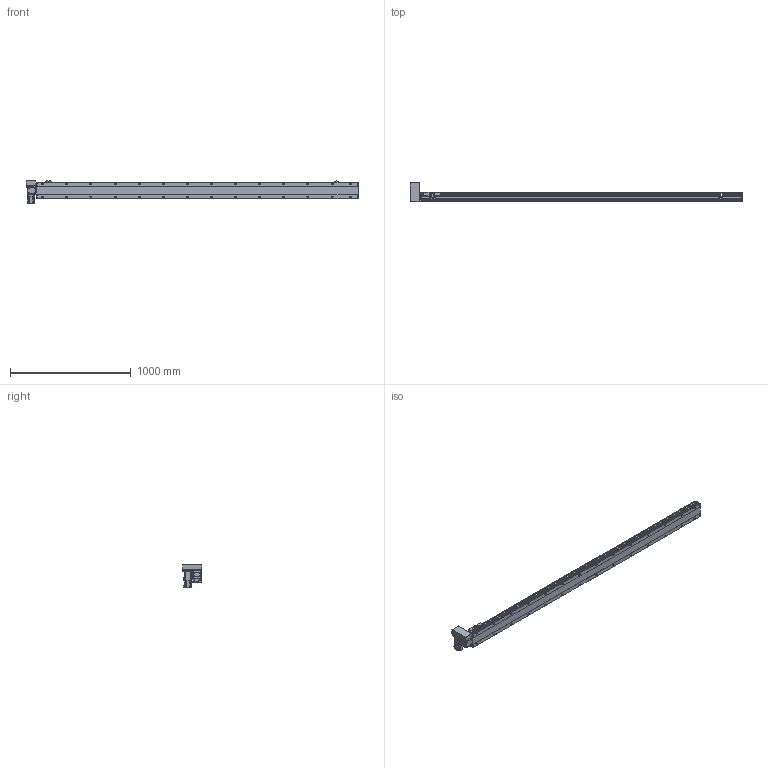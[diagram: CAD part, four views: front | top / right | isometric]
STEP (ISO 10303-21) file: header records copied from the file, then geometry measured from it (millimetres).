
FILE_DESCRIPTION( ( 'STEP AP214' ), '1' );
FILE_NAME( 'x:/temp/worker_4/temp/exporttempdir_2248_119_GVQYs/format_0/PBS140-P40-S2400-RU-T40-C1-N(0).stp', '2022-06-07T05:56:48', ( 'License CC BY-ND 4.0' ), ( 'CADENAS' ), ' ', 'PARTsolutions', ' ' );
FILE_SCHEMA( ( 'AUTOMOTIVE_DESIGN { 1 0 10303 214 1 1 1 1 }' ) );
Length unit declared in the file: millimetre
Products named in the file (7): PBS140-P40-S2400-RU-T40-C1-N(0); _PBS140-S2400()_body; _PBS140T-RU_motors; _T40-p1; _PBS140_sliser; _PBS140_plant; _PBS140_sensor
Assembly tree (8 placements, depth 2):
  PBS140-P40-S2400-RU-T40-C1-N(0)
    _PBS140-S2400()_body
    _PBS140T-RU_motors
    _T40-p1
    _PBS140_sliser
    _PBS140_plant
    _PBS140_sensor  x3
Bounding box: 2754 x 162.5 x 189.7 mm (x, y, z)
Volume: 12381727.6 mm3; surface area: 2110518 mm2
Topology: 8 solids, 8 shells, 1171 faces, 3076 edges, 2009 vertices
Faces by surface type: plane 728, cylinder 379, cone 54, sphere 8, torus 2
Full cylindrical faces by diameter (mm): 3.242 x4, 4 x2, 4.134 x4, 4.4 x8, 4.5 x2, 4.8 x4, 4.917 x36, 5.5 x7, 6 x2, 7 x30, 7.5 x8, 8 x12, 8.5 x4, 10.5 x28, 14 x1, 30 x2, 50 x2
Entity records: 43141 total; most frequent: CARTESIAN_POINT 7259, DIRECTION 5617, ORIENTED_EDGE 5272, EDGE_CURVE 2636, AXIS2_PLACEMENT_3D 1987, VERTEX_POINT 1845, LINE 1643, VECTOR 1643
